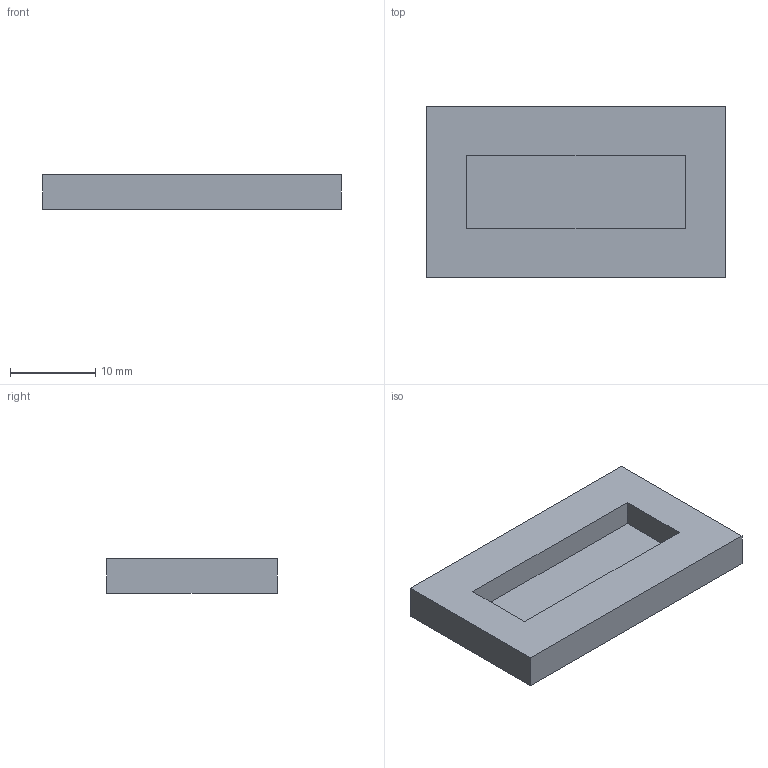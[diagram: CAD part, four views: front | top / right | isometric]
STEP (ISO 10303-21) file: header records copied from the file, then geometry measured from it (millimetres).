
FILE_DESCRIPTION(('FreeCAD Model'),'2;1');
FILE_NAME('Open CASCADE Shape Model','2026-11-20T08:25:39',('FreeCAD'),( 'FreeCAD'),'Open CASCADE STEP processor 7.8','FreeCAD','Unknown');
FILE_SCHEMA(('AUTOMOTIVE_DESIGN { 1 0 10303 214 1 1 1 1 }'));
Length unit declared in the file: millimetre
Products named in the file (1): Open CASCADE STEP translator 7.8 100
Bounding box: 35 x 20 x 4 mm (x, y, z)
Volume: 2139.5 mm3; surface area: 2045.2 mm2
Topology: 1 solids, 1 shells, 11 faces, 24 edges, 16 vertices
Faces by surface type: plane 11
Entity records: 308 total; most frequent: CARTESIAN_POINT 52, DIRECTION 48, ORIENTED_EDGE 48, EDGE_CURVE 24, LINE 24, VECTOR 24, VERTEX_POINT 16, AXIS2_PLACEMENT_3D 12
